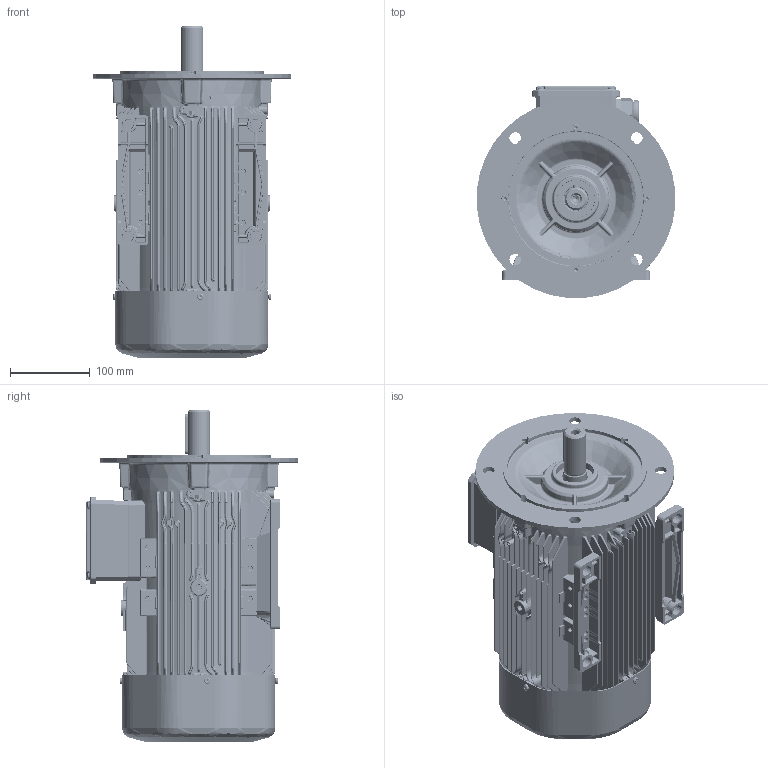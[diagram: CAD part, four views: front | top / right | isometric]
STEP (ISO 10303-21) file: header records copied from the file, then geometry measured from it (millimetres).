
FILE_DESCRIPTION(/* description */ (''),/* implementation_level */ '2;1');
FILE_NAME(/* name */ 'OUTLOOK VIEW QH100 PA B35 FF215 SPL.stp',/* time_stamp */ '2021-09-13T11:56:46+03:00',/* author */ (''),/* organization */ (''),/* preprocessor_version */ 'ST-DEVELOPER v16',/* originating_system */ 'SIEMENS PLM Software NX 11.0',/* authorisation */ '');
FILE_SCHEMA (('AUTOMOTIVE_DESIGN { 1 0 10303 214 3 1 1 1 }'));
Products named in the file (1): 26062CE45B9Cd4wb
Bounding box: 248.05 x 265.28 x 415.31 mm (x, y, z)
Volume: 5380593 mm3; surface area: 2057240.3 mm2
Topology: 74 solids, 74 shells, 12253 faces, 29884 edges, 17380 vertices
Faces by surface type: cylinder 3913, bspline 3682, plane 2940, torus 691, cone 558, sphere 406, extrusion 63
Full cylindrical faces by diameter (mm): 3.242 x4, 3.3 x4, 4 x9, 4.722 x3, 5 x20, 5.5 x4, 8 x8, 8.5 x9, 10 x5, 10.5 x1, 14.5 x4, 18.7 x1, 23.38 x2, 23.9 x1, 24.4 x1, 24.8 x1, 25 x5, 25.2 x1, 27.4 x1, 28 x1, 28.6 x1, 29.4 x1, 30 x3, 31.6 x1, 32 x1, 34 x2, 34.35 x8, 40 x1, 43.95 x4, 44.6 x4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
Entity records: 487973 total; most frequent: CARTESIAN_POINT 172881, ORIENTED_EDGE 57182, DIRECTION 52589, EDGE_CURVE 28591, AXIS2_PLACEMENT_3D 21382, VERTEX_POINT 17165, EDGE_LOOP 13368, ADVANCED_FACE 12233
